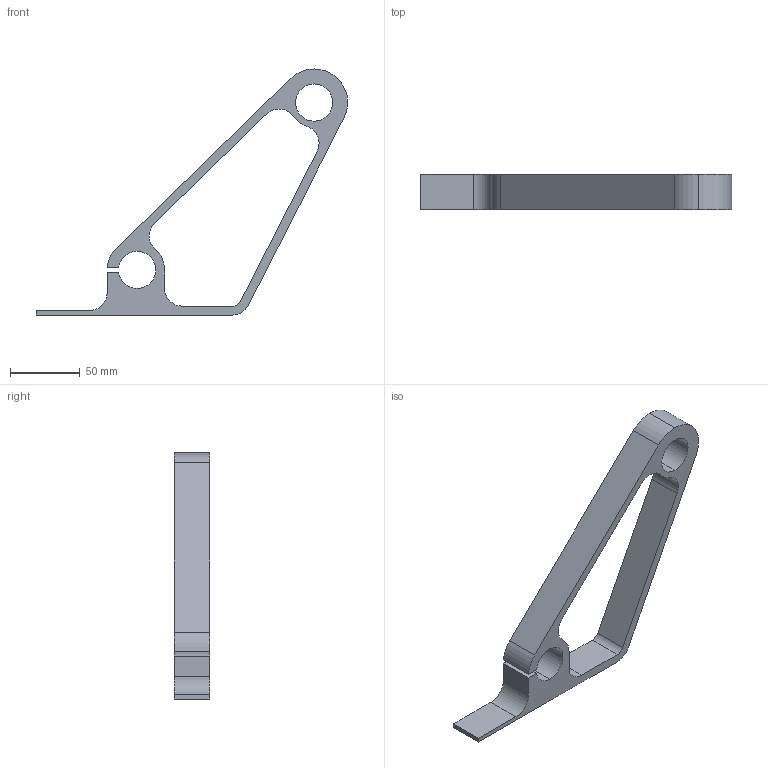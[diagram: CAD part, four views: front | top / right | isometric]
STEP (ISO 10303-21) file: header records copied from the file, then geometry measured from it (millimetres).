
FILE_DESCRIPTION(/* description */ ('STEP AP242 Edition 2','CAx-IF Rec.Pracs.---Representation and Presentation of Product Manufacturing Information (PMI)---4.0---2014-10-13','CAx-IF Rec.Pracs.---3D Tessellated Geometry---0.4---2014-09-14','2;1','CAx-IF Rec.Pracs.---User Defined Attributes---1.5---2016-08-15'),/* implementation_level */ '2;1');
FILE_NAME(/* name */ 'Hanging Bracket - Hanging Bracket Blue',/* time_stamp */ '2026-05-24T01:45:39Z',/* author */ (''),/* organization */ (''),/* preprocessor_version */ 'ST-DEVELOPER v20',/* originating_system */ 'ONSHAPE BY PTC INC, 1.215',/* authorisation */ ' ');
FILE_SCHEMA (('AP242_MANAGED_MODEL_BASED_3D_ENGINEERING_MIM_LF { 1 0 10303 442 3 1 4 }'));
Length unit declared in the file: metre
Products named in the file (1): Hanging Bracket Blue
Bounding box: 223.41 x 25.4 x 176.5 mm (x, y, z)
Volume: 129263.2 mm3; surface area: 41272.7 mm2
Topology: 1 solids, 1 shells, 31 faces, 89 edges, 60 vertices
Faces by surface type: cylinder 17, plane 14
Entity records: 1065 total; most frequent: DIRECTION 189, CARTESIAN_POINT 181, ORIENTED_EDGE 178, EDGE_CURVE 89, AXIS2_PLACEMENT_3D 68, VERTEX_POINT 60, LINE 53, VECTOR 53
